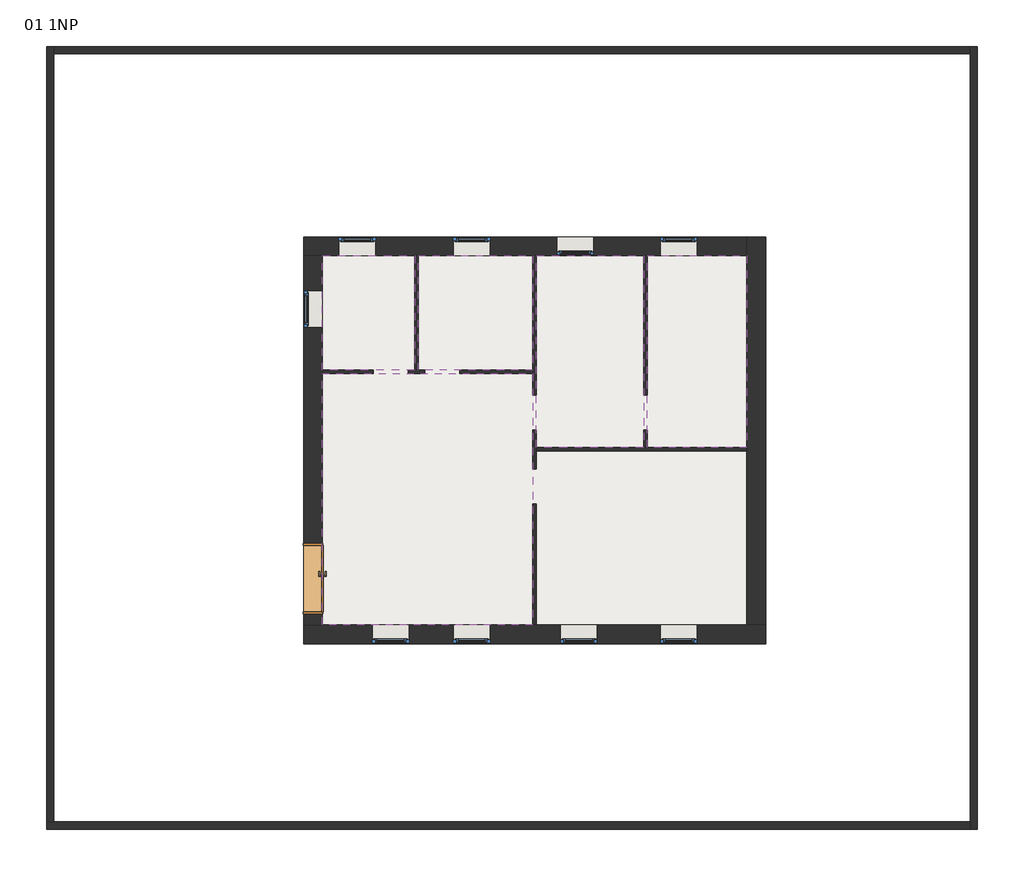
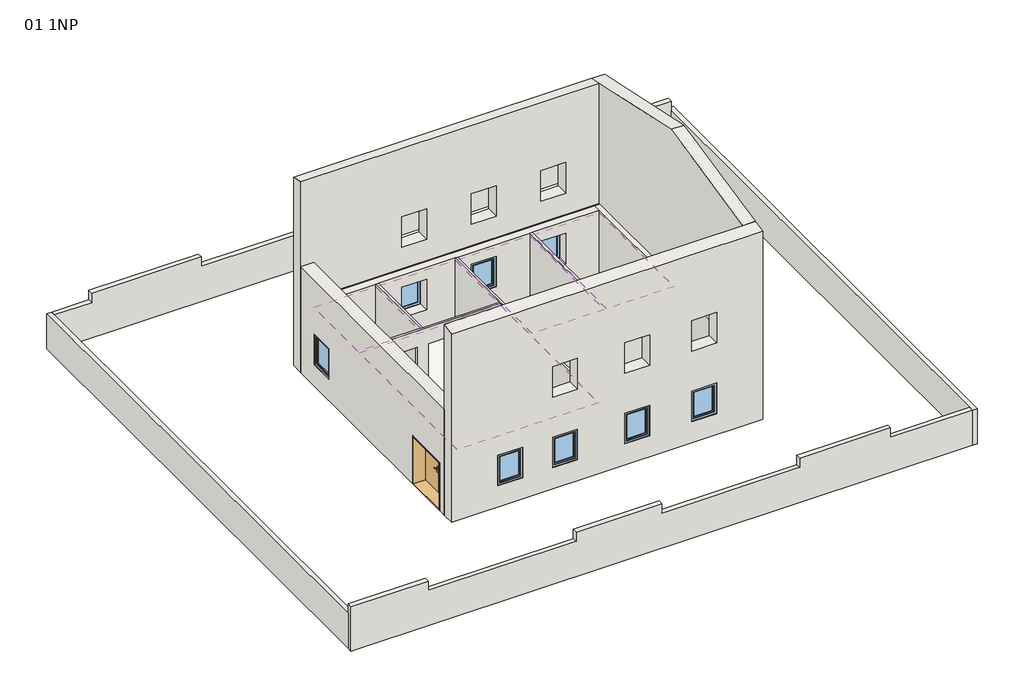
# One storey, incomplete: 13 walls, 9 windows, 6 coverings, 1 door, 1 slab.
"""IFC4 building model written with IfcOpenShell, lengths in millimetres."""

from ifc_helpers import new_model, si_unit, frame, origin, origin_with_axes, place, context, project, spatial, polyline, outline, extrude, faceted_brep, transform, mapped, element, save
from components import door_1800_x_2000_8b63a593, window_1000x1300_4b8b3f88, window_1000x1300_138def9d

model = new_model("IFC4")

# Units and contexts
model_context = context("Model", 3, world=origin())
ifc_project = project(units=[si_unit("LENGTHUNIT", "METRE", prefix="MILLI")], contexts=[model_context])

# Site, building, storey
site = spatial("IfcSite", under=ifc_project)
building = spatial("IfcBuilding", under=site)
storey = spatial("IfcBuildingStorey", under=building, Name="01 1NP", Elevation=0.0)

# Coverings
placement = place(None, origin())
element("IfcCovering", 1, ObjectType="Strop 1", at=placement, inside=storey, context=model_context, shape_type="SweptSolid", body=[
    extrude(outline(polyline([(30688.4387685, 21767.0937321), (28193.4387685, 21767.0937321), (28193.4387685, 24862.0937321), (30688.4387685, 24862.0937321), (30688.4387685, 21767.0937321)])), frame((0.0, 0.0, 2600.0), z_axis=(0.0, 0.0, 1.0), x_axis=(1.0, 0.0, 0.0)), (0.0, 0.0, 1.0), 100.0),
])
element("IfcCovering", 2, ObjectType="Strop 1", at=placement, inside=storey, context=model_context, shape_type="SweptSolid", body=[
    extrude(outline(polyline([(30688.4387685, 21767.0937321), (28193.4387685, 21767.0937321), (28193.4387685, 24862.0937321), (30688.4387685, 24862.0937321), (30688.4387685, 21767.0937321)])), frame((0.0, 0.0, 2600.0), z_axis=(0.0, 0.0, 1.0), x_axis=(1.0, 0.0, 0.0)), (0.0, 0.0, 1.0), 100.0),
])
element("IfcCovering", 3, ObjectType="Strop 1", at=placement, inside=storey, context=model_context, shape_type="SweptSolid", body=[
    extrude(outline(polyline([(30788.4387685, 21767.0937321), (30788.4387685, 24862.0937321), (33888.4387685, 24862.0937321), (33888.4387685, 21767.0937321), (30788.4387685, 21767.0937321)])), frame((0.0, 0.0, 2600.0), z_axis=(0.0, 0.0, 1.0), x_axis=(1.0, 0.0, 0.0)), (0.0, 0.0, 1.0), 100.0),
])
element("IfcCovering", 4, ObjectType="Strop 1", at=placement, inside=storey, context=model_context, shape_type="SweptSolid", body=[
    extrude(outline(polyline([(33988.4387685, 24862.0937321), (36888.4387685, 24862.0937321), (36888.4387685, 19667.0937321), (33988.4387685, 19667.0937321), (33988.4387685, 24862.0937321)])), frame((0.0, 0.0, 2600.0), z_axis=(0.0, 0.0, 1.0), x_axis=(1.0, 0.0, 0.0)), (0.0, 0.0, 1.0), 100.0),
])
element("IfcCovering", 5, ObjectType="Strop 1", at=placement, inside=storey, context=model_context, shape_type="SweptSolid", body=[
    extrude(outline(polyline([(36988.4387685, 24862.0937321), (39683.4387685, 24862.0937321), (39683.4387685, 19667.0937321), (36988.4387685, 19667.0937321), (36988.4387685, 24862.0937321)])), frame((0.0, 0.0, 2600.0), z_axis=(0.0, 0.0, 1.0), x_axis=(1.0, 0.0, 0.0)), (0.0, 0.0, 1.0), 100.0),
])
element("IfcCovering", 6, ObjectType="Strop 1", at=placement, inside=storey, context=model_context, shape_type="SweptSolid", body=[
    extrude(outline(polyline([(33888.4387685, 21667.0937321), (33888.4387685, 14862.0937321), (28193.4387685, 14862.0937321), (28193.4387685, 21667.0937321), (33888.4387685, 21667.0937321)])), frame((0.0, 0.0, 2600.0), z_axis=(0.0, 0.0, 1.0), x_axis=(1.0, 0.0, 0.0)), (0.0, 0.0, 1.0), 100.0),
])

# Door
door_1800_x_2000_shape = door_1800_x_2000_8b63a593(model_context)
element("IfcDoor", 7, ObjectType="Dvoukridle oboustrana zaruben : 1800 x 2000", at=placement, inside=storey, context=model_context, shape_type="MappedRepresentation", body=[
    mapped(door_1800_x_2000_shape, transform((27938.4387685, 16097.0937321, 0.0), x_axis=(0.0, -1.0, 0.0), y_axis=(1.0, 0.0, 0.0), z_axis=(0.0, 0.0, 1.0))),
])

# Slab
element("IfcSlab", 8, ObjectType="Standardní 300 mm", at=placement, inside=storey, context=model_context, shape_type="SweptSolid", body=[
    extrude(outline(polyline([(28183.4387685, 14852.0937321), (28183.4387685, 24872.0937321), (39693.4387685, 24872.0937321), (39693.4387685, 14852.0937321), (28183.4387685, 14852.0937321)])), frame((0.0, 0.0, -300.0), z_axis=(0.0, 0.0, 1.0), x_axis=(1.0, 0.0, 0.0)), (0.0, 0.0, 1.0), 300.0),
])

# Walls
element("IfcWall", 9, ObjectType="SENDWIX L 510mm", at=placement, inside=storey, context=model_context, shape_type="Brep", body=[
    faceted_brep([(27683.4387685, 14352.0937321, 0.0), (40193.4387685, 14352.0937321, 0.0), (40193.4387685, 14352.0937321, 8000.0), (27683.4387685, 14352.0937321, 8000.0), (29538.4387685, 14352.0937321, 2200.0), (30538.4387685, 14352.0937321, 2200.0), (30538.4387685, 14352.0937321, 900.0), (29538.4387685, 14352.0937321, 900.0), (32738.4387685, 14352.0937321, 2200.0), (32738.4387685, 14352.0937321, 900.0), (31738.4387685, 14352.0937321, 900.0), (31738.4387685, 14352.0937321, 2200.0), (35638.4387685, 14352.0937321, 2200.0), (35638.4387685, 14352.0937321, 900.0), (34638.4387685, 14352.0937321, 900.0), (34638.4387685, 14352.0937321, 2200.0), (38338.4387685, 14352.0937321, 2200.0), (38338.4387685, 14352.0937321, 900.0), (37338.4387685, 14352.0937321, 900.0), (37338.4387685, 14352.0937321, 2200.0), (32738.4387685, 14352.0937321, 5200.0), (32738.4387685, 14352.0937321, 3900.0), (31738.4387685, 14352.0937321, 3900.0), (31738.4387685, 14352.0937321, 5200.0), (35638.4387685, 14352.0937321, 5200.0), (35638.4387685, 14352.0937321, 3900.0), (34638.4387685, 14352.0937321, 3900.0), (34638.4387685, 14352.0937321, 5200.0), (38338.4387685, 14352.0937321, 5200.0), (38338.4387685, 14352.0937321, 3900.0), (37338.4387685, 14352.0937321, 3900.0), (37338.4387685, 14352.0937321, 5200.0), (40193.4387685, 14862.0937321, 0.0), (39683.4387685, 14862.0937321, 0.0), (33988.4387685, 14862.0937321, 0.0), (33888.4387685, 14862.0937321, 0.0), (28193.4387685, 14862.0937321, 0.0), (27683.4387685, 14862.0937321, 0.0), (27683.4387685, 14862.0937321, 4500.0), (27683.4387685, 14862.0937321, 8108.4038465), (39683.4387685, 14862.0937321, 8108.4038465), (40193.4387685, 14862.0937321, 8108.4038465), (30538.4387685, 14862.0937321, 2200.0), (29538.4387685, 14862.0937321, 2200.0), (29538.4387685, 14862.0937321, 900.0), (30538.4387685, 14862.0937321, 900.0), (32738.4387685, 14862.0937321, 900.0), (32738.4387685, 14862.0937321, 2200.0), (31738.4387685, 14862.0937321, 2200.0), (31738.4387685, 14862.0937321, 900.0), (35638.4387685, 14862.0937321, 900.0), (35638.4387685, 14862.0937321, 2200.0), (34638.4387685, 14862.0937321, 2200.0), (34638.4387685, 14862.0937321, 900.0), (38338.4387685, 14862.0937321, 900.0), (38338.4387685, 14862.0937321, 2200.0), (37338.4387685, 14862.0937321, 2200.0), (37338.4387685, 14862.0937321, 900.0), (32738.4387685, 14862.0937321, 3900.0), (32738.4387685, 14862.0937321, 5200.0), (31738.4387685, 14862.0937321, 5200.0), (31738.4387685, 14862.0937321, 3900.0), (35638.4387685, 14862.0937321, 3900.0), (35638.4387685, 14862.0937321, 5200.0), (34638.4387685, 14862.0937321, 5200.0), (34638.4387685, 14862.0937321, 3900.0), (38338.4387685, 14862.0937321, 3900.0), (38338.4387685, 14862.0937321, 5200.0), (37338.4387685, 14862.0937321, 5200.0), (37338.4387685, 14862.0937321, 3900.0), (27883.4387685, 14862.0937321, 2700.0), (28193.4387685, 14862.0937321, 2700.0), (33888.4387685, 14862.0937321, 2700.0), (33988.4387685, 14862.0937321, 2700.0), (39683.4387685, 14862.0937321, 2700.0), (39993.4387685, 14862.0937321, 2700.0), (39993.4387685, 14862.0937321, 3000.0), (39683.4387685, 14862.0937321, 3000.0), (28193.4387685, 14862.0937321, 3000.0), (27883.4387685, 14862.0937321, 3000.0), (27883.4387685, 14552.0937321, 2700.0), (39993.4387685, 14552.0937321, 2700.0), (39993.4387685, 14552.0937321, 3000.0), (27883.4387685, 14552.0937321, 3000.0)], [[[0, 1, 2, 3], [4, 5, 6, 7], [8, 9, 10, 11], [12, 13, 14, 15], [16, 17, 18, 19], [20, 21, 22, 23], [24, 25, 26, 27], [28, 29, 30, 31]], [[32, 33, 34, 35, 36, 37, 38, 39, 40, 41], [42, 43, 44, 45], [46, 47, 48, 49], [50, 51, 52, 53], [54, 55, 56, 57], [58, 59, 60, 61], [62, 63, 64, 65], [66, 67, 68, 69], [70, 71, 72, 73, 74, 75, 76, 77, 78, 79]], [[1, 0, 37, 36, 35, 34, 33, 32]], [[0, 3, 39, 38, 37]], [[2, 1, 32, 41]], [[3, 2, 41, 40, 39]], [[43, 4, 7, 44]], [[4, 43, 42, 5]], [[5, 42, 45, 6]], [[6, 45, 44, 7]], [[47, 46, 9, 8]], [[48, 47, 8, 11]], [[49, 48, 11, 10]], [[46, 49, 10, 9]], [[51, 50, 13, 12]], [[52, 51, 12, 15]], [[53, 52, 15, 14]], [[50, 53, 14, 13]], [[55, 54, 17, 16]], [[56, 55, 16, 19]], [[57, 56, 19, 18]], [[54, 57, 18, 17]], [[59, 58, 21, 20]], [[60, 59, 20, 23]], [[61, 60, 23, 22]], [[58, 61, 22, 21]], [[63, 62, 25, 24]], [[64, 63, 24, 27]], [[65, 64, 27, 26]], [[62, 65, 26, 25]], [[67, 66, 29, 28]], [[68, 67, 28, 31]], [[69, 68, 31, 30]], [[66, 69, 30, 29]], [[80, 81, 75, 74, 73, 72, 71, 70]], [[82, 83, 79, 78, 77, 76]], [[83, 80, 70, 79]], [[81, 82, 76, 75]], [[81, 80, 83, 82]]]),
])
element("IfcWall", 10, ObjectType="SENDWIX L 510mm", at=placement, inside=storey, context=model_context, shape_type="Brep", body=[
    faceted_brep([(27683.4387685, 14862.0937321, 4500.0), (27683.4387685, 24862.0937321, 4500.0), (27683.4387685, 24862.0937321, 0.0), (27683.4387685, 17067.0937321, 0.0), (27683.4387685, 17067.0937321, 2050.0), (27683.4387685, 15167.0937321, 2050.0), (27683.4387685, 15167.0937321, 0.0), (27683.4387685, 14862.0937321, 0.0), (27683.4387685, 22917.0937321, 2200.0), (27683.4387685, 22917.0937321, 900.0), (27683.4387685, 23917.0937321, 900.0), (27683.4387685, 23917.0937321, 2200.0), (28193.4387685, 24862.0937321, 4500.0), (28193.4387685, 14862.0937321, 4500.0), (28193.4387685, 14862.0937321, 3000.0), (28193.4387685, 24862.0937321, 3000.0), (28193.4387685, 15167.0937321, 0.0), (28193.4387685, 15167.0937321, 2050.0), (28193.4387685, 17067.0937321, 2050.0), (28193.4387685, 17067.0937321, 0.0), (28193.4387685, 21667.0937321, 0.0), (28193.4387685, 21767.0937321, 0.0), (28193.4387685, 24862.0937321, 0.0), (28193.4387685, 24862.0937321, 2700.0), (28193.4387685, 21767.0937321, 2700.0), (28193.4387685, 21667.0937321, 2700.0), (28193.4387685, 14862.0937321, 2700.0), (28193.4387685, 14862.0937321, 0.0), (28193.4387685, 22917.0937321, 900.0), (28193.4387685, 22917.0937321, 2200.0), (28193.4387685, 23917.0937321, 2200.0), (28193.4387685, 23917.0937321, 900.0), (27883.4387685, 24862.0937321, 3000.0), (27883.4387685, 24862.0937321, 2700.0), (27883.4387685, 14862.0937321, 2700.0), (27883.4387685, 14862.0937321, 3000.0)], [[[0, 1, 2, 3, 4, 5, 6, 7], [8, 9, 10, 11]], [[12, 13, 14, 15]], [[16, 17, 18, 19, 20, 21, 22, 23, 24, 25, 26, 27], [28, 29, 30, 31]], [[2, 22, 21, 20, 19, 3]], [[27, 7, 6, 16]], [[1, 0, 13, 12]], [[2, 1, 12, 15, 32, 33, 23, 22]], [[0, 7, 27, 26, 34, 35, 14, 13]], [[17, 16, 6, 5]], [[18, 17, 5, 4]], [[19, 18, 4, 3]], [[29, 28, 9, 8]], [[30, 29, 8, 11]], [[31, 30, 11, 10]], [[28, 31, 10, 9]], [[33, 34, 26, 25, 24, 23]], [[35, 32, 15, 14]], [[34, 33, 32, 35]]]),
])
element("IfcWall", 11, ObjectType="SENDWIX L 510mm", at=placement, inside=storey, context=model_context, shape_type="Brep", body=[
    faceted_brep([(39683.4387685, 25372.0937321, 0.0), (27683.4387685, 25372.0937321, 0.0), (27683.4387685, 25372.0937321, 8000.0), (39683.4387685, 25372.0937321, 8000.0), (29638.4387685, 25372.0937321, 2200.0), (28638.4387685, 25372.0937321, 2200.0), (28638.4387685, 25372.0937321, 900.0), (29638.4387685, 25372.0937321, 900.0), (32738.4387685, 25372.0937321, 900.0), (32738.4387685, 25372.0937321, 2200.0), (31738.4387685, 25372.0937321, 2200.0), (31738.4387685, 25372.0937321, 900.0), (35538.4387685, 25372.0937321, 900.0), (35538.4387685, 25372.0937321, 2200.0), (34538.4387685, 25372.0937321, 2200.0), (34538.4387685, 25372.0937321, 900.0), (38338.4387685, 25372.0937321, 900.0), (38338.4387685, 25372.0937321, 2200.0), (37338.4387685, 25372.0937321, 2200.0), (37338.4387685, 25372.0937321, 900.0), (32738.4387685, 25372.0937321, 3900.0), (32738.4387685, 25372.0937321, 5200.0), (31738.4387685, 25372.0937321, 5200.0), (31738.4387685, 25372.0937321, 3900.0), (35538.4387685, 25372.0937321, 3900.0), (35538.4387685, 25372.0937321, 5200.0), (34538.4387685, 25372.0937321, 5200.0), (34538.4387685, 25372.0937321, 3900.0), (38338.4387685, 25372.0937321, 3900.0), (38338.4387685, 25372.0937321, 5200.0), (37338.4387685, 25372.0937321, 5200.0), (37338.4387685, 25372.0937321, 3900.0), (27683.4387685, 24862.0937321, 0.0), (28193.4387685, 24862.0937321, 0.0), (30688.4387685, 24862.0937321, 0.0), (30788.4387685, 24862.0937321, 0.0), (33888.4387685, 24862.0937321, 0.0), (33988.4387685, 24862.0937321, 0.0), (36888.4387685, 24862.0937321, 0.0), (36988.4387685, 24862.0937321, 0.0), (39683.4387685, 24862.0937321, 0.0), (39683.4387685, 24862.0937321, 2700.0), (36988.4387685, 24862.0937321, 2700.0), (36888.4387685, 24862.0937321, 2700.0), (33988.4387685, 24862.0937321, 2700.0), (33888.4387685, 24862.0937321, 2700.0), (30788.4387685, 24862.0937321, 2700.0), (30688.4387685, 24862.0937321, 2700.0), (28193.4387685, 24862.0937321, 2700.0), (27883.4387685, 24862.0937321, 2700.0), (27883.4387685, 24862.0937321, 3000.0), (28193.4387685, 24862.0937321, 3000.0), (39683.4387685, 24862.0937321, 3000.0), (39683.4387685, 24862.0937321, 8108.4038465), (27683.4387685, 24862.0937321, 8108.4038465), (27683.4387685, 24862.0937321, 4500.0), (28638.4387685, 24862.0937321, 2200.0), (29638.4387685, 24862.0937321, 2200.0), (29638.4387685, 24862.0937321, 900.0), (28638.4387685, 24862.0937321, 900.0), (32738.4387685, 24862.0937321, 2200.0), (32738.4387685, 24862.0937321, 900.0), (31738.4387685, 24862.0937321, 900.0), (31738.4387685, 24862.0937321, 2200.0), (35538.4387685, 24862.0937321, 2200.0), (35538.4387685, 24862.0937321, 900.0), (34538.4387685, 24862.0937321, 900.0), (34538.4387685, 24862.0937321, 2200.0), (38338.4387685, 24862.0937321, 2200.0), (38338.4387685, 24862.0937321, 900.0), (37338.4387685, 24862.0937321, 900.0), (37338.4387685, 24862.0937321, 2200.0), (32738.4387685, 24862.0937321, 5200.0), (32738.4387685, 24862.0937321, 3900.0), (31738.4387685, 24862.0937321, 3900.0), (31738.4387685, 24862.0937321, 5200.0), (35538.4387685, 24862.0937321, 5200.0), (35538.4387685, 24862.0937321, 3900.0), (34538.4387685, 24862.0937321, 3900.0), (34538.4387685, 24862.0937321, 5200.0), (38338.4387685, 24862.0937321, 5200.0), (38338.4387685, 24862.0937321, 3900.0), (37338.4387685, 24862.0937321, 3900.0), (37338.4387685, 24862.0937321, 5200.0), (39683.4387685, 25172.0937321, 3000.0), (39683.4387685, 25172.0937321, 2700.0), (27883.4387685, 25172.0937321, 2700.0), (27883.4387685, 25172.0937321, 3000.0)], [[[0, 1, 2, 3], [4, 5, 6, 7], [8, 9, 10, 11], [12, 13, 14, 15], [16, 17, 18, 19], [20, 21, 22, 23], [24, 25, 26, 27], [28, 29, 30, 31]], [[32, 33, 34, 35, 36, 37, 38, 39, 40, 41, 42, 43, 44, 45, 46, 47, 48, 49, 50, 51, 52, 53, 54, 55], [56, 57, 58, 59], [60, 61, 62, 63], [64, 65, 66, 67], [68, 69, 70, 71], [72, 73, 74, 75], [76, 77, 78, 79], [80, 81, 82, 83]], [[1, 0, 40, 39, 38, 37, 36, 35, 34, 33, 32]], [[2, 1, 32, 55, 54]], [[0, 3, 53, 52, 84, 85, 41, 40]], [[3, 2, 54, 53]], [[5, 56, 59, 6]], [[56, 5, 4, 57]], [[57, 4, 7, 58]], [[58, 7, 6, 59]], [[9, 8, 61, 60]], [[10, 9, 60, 63]], [[11, 10, 63, 62]], [[8, 11, 62, 61]], [[13, 12, 65, 64]], [[14, 13, 64, 67]], [[15, 14, 67, 66]], [[12, 15, 66, 65]], [[17, 16, 69, 68]], [[18, 17, 68, 71]], [[19, 18, 71, 70]], [[16, 19, 70, 69]], [[21, 20, 73, 72]], [[22, 21, 72, 75]], [[23, 22, 75, 74]], [[20, 23, 74, 73]], [[25, 24, 77, 76]], [[26, 25, 76, 79]], [[27, 26, 79, 78]], [[24, 27, 78, 77]], [[29, 28, 81, 80]], [[30, 29, 80, 83]], [[31, 30, 83, 82]], [[28, 31, 82, 81]], [[85, 86, 49, 48, 47, 46, 45, 44, 43, 42, 41]], [[50, 87, 84, 52, 51]], [[86, 87, 50, 49]], [[87, 86, 85, 84]]]),
])
element("IfcWall", 12, ObjectType="SENDWIX L 510mm", at=placement, inside=storey, context=model_context, shape_type="Brep", body=[
    faceted_brep([(40193.4387685, 14862.0937321, 0.0), (40193.4387685, 25372.0937321, 0.0), (40193.4387685, 25372.0937321, 8000.0), (40193.4387685, 19862.0937321, 9171.1866548), (40193.4387685, 14862.0937321, 8108.4038465), (39683.4387685, 25372.0937321, 0.0), (39683.4387685, 24862.0937321, 0.0), (39683.4387685, 19667.0937321, 0.0), (39683.4387685, 19567.0937321, 0.0), (39683.4387685, 14862.0937321, 0.0), (39683.4387685, 14862.0937321, 2700.0), (39683.4387685, 19567.0937321, 2700.0), (39683.4387685, 19667.0937321, 2700.0), (39683.4387685, 24862.0937321, 2700.0), (39683.4387685, 25172.0937321, 2700.0), (39683.4387685, 25172.0937321, 3000.0), (39683.4387685, 24862.0937321, 3000.0), (39683.4387685, 14862.0937321, 3000.0), (39683.4387685, 14862.0937321, 8108.4038465), (39683.4387685, 19862.0937321, 9171.1866548), (39683.4387685, 24862.0937321, 8108.4038465), (39683.4387685, 25372.0937321, 8000.0), (39993.4387685, 14862.0937321, 3000.0), (39993.4387685, 14862.0937321, 2700.0), (39993.4387685, 25172.0937321, 2700.0), (39993.4387685, 25172.0937321, 3000.0)], [[[0, 1, 2, 3, 4]], [[5, 6, 7, 8, 9, 10, 11, 12, 13, 14, 15, 16, 17, 18, 19, 20, 21]], [[1, 0, 9, 8, 7, 6, 5]], [[2, 1, 5, 21]], [[0, 4, 18, 17, 22, 23, 10, 9]], [[18, 4, 3, 19]], [[2, 21, 20, 19, 3]], [[23, 24, 14, 13, 12, 11, 10]], [[15, 25, 22, 17, 16]], [[24, 25, 15, 14]], [[25, 24, 23, 22]]]),
])
element("IfcWall", 13, ObjectType="Standardní 100mm", at=placement, inside=storey, context=model_context, shape_type="Brep", body=[
    faceted_brep([(33988.4387685, 14862.0937321, 0.0), (33988.4387685, 18142.0937321, 0.0), (33988.4387685, 18142.0937321, 2020.0), (33988.4387685, 19092.0937321, 2020.0), (33988.4387685, 19092.0937321, 0.0), (33988.4387685, 19567.0937321, 0.0), (33988.4387685, 19667.0937321, 0.0), (33988.4387685, 20142.0937321, 0.0), (33988.4387685, 20142.0937321, 2020.0), (33988.4387685, 21092.0937321, 2020.0), (33988.4387685, 21092.0937321, 0.0), (33988.4387685, 24862.0937321, 0.0), (33988.4387685, 24862.0937321, 2700.0), (33988.4387685, 19667.0937321, 2700.0), (33988.4387685, 19567.0937321, 2700.0), (33988.4387685, 14862.0937321, 2700.0), (33888.4387685, 18142.0937321, 2020.0), (33888.4387685, 18142.0937321, 0.0), (33888.4387685, 14862.0937321, 0.0), (33888.4387685, 14862.0937321, 2700.0), (33888.4387685, 21667.0937321, 2700.0), (33888.4387685, 21767.0937321, 2700.0), (33888.4387685, 24862.0937321, 2700.0), (33888.4387685, 24862.0937321, 0.0), (33888.4387685, 21767.0937321, 0.0), (33888.4387685, 21667.0937321, 0.0), (33888.4387685, 21092.0937321, 0.0), (33888.4387685, 21092.0937321, 2020.0), (33888.4387685, 20142.0937321, 2020.0), (33888.4387685, 20142.0937321, 0.0), (33888.4387685, 19092.0937321, 0.0), (33888.4387685, 19092.0937321, 2020.0)], [[[0, 1, 2, 3, 4, 5, 6, 7, 8, 9, 10, 11, 12, 13, 14, 15]], [[16, 17, 18, 19, 20, 21, 22, 23, 24, 25, 26, 27, 28, 29, 30, 31]], [[11, 10, 26, 25, 24, 23]], [[18, 17, 1, 0]], [[30, 29, 7, 6, 5, 4]], [[0, 15, 19, 18]], [[12, 11, 23, 22]], [[15, 14, 13, 12, 22, 21, 20, 19]], [[27, 26, 10, 9]], [[28, 27, 9, 8]], [[29, 28, 8, 7]], [[2, 1, 17, 16]], [[3, 2, 16, 31]], [[4, 3, 31, 30]]]),
])
element("IfcWall", 14, ObjectType="Standardní 100mm", at=placement, inside=storey, context=model_context, shape_type="Brep", body=[
    faceted_brep([(33988.4387685, 19567.0937321, 0.0), (39683.4387685, 19567.0937321, 0.0), (39683.4387685, 19567.0937321, 2700.0), (33988.4387685, 19567.0937321, 2700.0), (33988.4387685, 19667.0937321, 0.0), (33988.4387685, 19667.0937321, 2700.0), (36888.4387685, 19667.0937321, 2700.0), (36988.4387685, 19667.0937321, 2700.0), (39683.4387685, 19667.0937321, 2700.0), (39683.4387685, 19667.0937321, 0.0), (36988.4387685, 19667.0937321, 0.0), (36888.4387685, 19667.0937321, 0.0)], [[[0, 1, 2, 3]], [[4, 5, 6, 7, 8, 9, 10, 11]], [[1, 0, 4, 11, 10, 9]], [[2, 1, 9, 8]], [[0, 3, 5, 4]], [[3, 2, 8, 7, 6, 5]]]),
])
element("IfcWall", 15, ObjectType="Standardní 100mm", at=placement, inside=storey, context=model_context, shape_type="Brep", body=[
    faceted_brep([(31913.4387685, 21667.0937321, 2020.0), (31913.4387685, 21667.0937321, 0.0), (33888.4387685, 21667.0937321, 0.0), (33888.4387685, 21667.0937321, 2700.0), (28193.4387685, 21667.0937321, 2700.0), (28193.4387685, 21667.0937321, 0.0), (29563.4387685, 21667.0937321, 0.0), (29563.4387685, 21667.0937321, 2020.0), (30513.4387685, 21667.0937321, 2020.0), (30513.4387685, 21667.0937321, 0.0), (30963.4387685, 21667.0937321, 0.0), (30963.4387685, 21667.0937321, 2020.0), (33888.4387685, 21767.0937321, 0.0), (31913.4387685, 21767.0937321, 0.0), (31913.4387685, 21767.0937321, 2020.0), (30963.4387685, 21767.0937321, 2020.0), (30963.4387685, 21767.0937321, 0.0), (30788.4387685, 21767.0937321, 0.0), (30688.4387685, 21767.0937321, 0.0), (30513.4387685, 21767.0937321, 0.0), (30513.4387685, 21767.0937321, 2020.0), (29563.4387685, 21767.0937321, 2020.0), (29563.4387685, 21767.0937321, 0.0), (28193.4387685, 21767.0937321, 0.0), (28193.4387685, 21767.0937321, 2700.0), (30688.4387685, 21767.0937321, 2700.0), (30788.4387685, 21767.0937321, 2700.0), (33888.4387685, 21767.0937321, 2700.0)], [[[0, 1, 2, 3, 4, 5, 6, 7, 8, 9, 10, 11]], [[12, 13, 14, 15, 16, 17, 18, 19, 20, 21, 22, 23, 24, 25, 26, 27]], [[23, 22, 6, 5]], [[2, 1, 13, 12]], [[10, 9, 19, 18, 17, 16]], [[5, 4, 24, 23]], [[3, 2, 12, 27]], [[4, 3, 27, 26, 25, 24]], [[7, 6, 22, 21]], [[8, 7, 21, 20]], [[9, 8, 20, 19]], [[14, 13, 1, 0]], [[15, 14, 0, 11]], [[16, 15, 11, 10]]]),
])
element("IfcWall", 16, ObjectType="Standardní 100mm", at=placement, inside=storey, context=model_context, shape_type="SweptSolid", body=[
    extrude(outline(polyline([(30688.4387685, 21767.0937321), (30688.4387685, 24862.0937321), (30788.4387685, 24862.0937321), (30788.4387685, 21767.0937321), (30688.4387685, 21767.0937321)])), origin_with_axes(), (0.0, 0.0, 1.0), 2700.0),
])
element("IfcWall", 17, ObjectType="Standardní 100mm", at=placement, inside=storey, context=model_context, shape_type="SweptSolid", body=[
    extrude(outline(polyline([(24862.0937321, 0.0), (21092.0937321, 0.0), (21092.0937321, 2020.0), (20142.0937321, 2020.0), (20142.0937321, 0.0), (19667.0937321, 0.0), (19667.0937321, 2700.0), (24862.0937321, 2700.0), (24862.0937321, 0.0)])), frame((36888.4387685, 0.0, 0.0), z_axis=(1.0, 0.0, 0.0), x_axis=(0.0, 1.0, 0.0)), (0.0, 0.0, 1.0), 100.0),
])
element("IfcWall", 18, ObjectType="Standardní 200mm", at=placement, inside=storey, context=model_context, shape_type="Brep", body=[
    faceted_brep([(20725.9805266, 9328.6746837, 0.0), (45725.9805266, 9328.6746837, 0.0), (45725.9805266, 9328.6746837, 1500.0), (42425.9805266, 9328.6746837, 1500.0), (42425.9805266, 9328.6746837, 1900.0), (38769.4032946, 9328.6746837, 1900.0), (38769.4032946, 9328.6746837, 1500.0), (33236.1851019, 9328.6746837, 1500.0), (33236.1851019, 9328.6746837, 1900.0), (29781.1194066, 9328.6746837, 1900.0), (29781.1194066, 9328.6746837, 1500.0), (23838.5703533, 9328.6746837, 1500.0), (23838.5703533, 9328.6746837, 1900.0), (20725.9805266, 9328.6746837, 1900.0), (20725.9805266, 9528.6746837, 0.0), (20725.9805266, 9528.6746837, 1500.0), (20725.9805266, 9528.6746837, 1900.0), (23838.5703533, 9528.6746837, 1900.0), (23838.5703533, 9528.6746837, 1500.0), (29781.1194066, 9528.6746837, 1500.0), (29781.1194066, 9528.6746837, 1900.0), (33236.1851019, 9528.6746837, 1900.0), (33236.1851019, 9528.6746837, 1500.0), (38769.4032946, 9528.6746837, 1500.0), (38769.4032946, 9528.6746837, 1900.0), (42425.9805266, 9528.6746837, 1900.0), (42425.9805266, 9528.6746837, 1500.0), (45725.9805266, 9528.6746837, 1500.0), (45725.9805266, 9528.6746837, 0.0), (20925.9805266, 9528.6746837, 0.0)], [[[0, 1, 2, 3, 4, 5, 6, 7, 8, 9, 10, 11, 12, 13]], [[14, 15, 16, 17, 18, 19, 20, 21, 22, 23, 24, 25, 26, 27, 28, 29]], [[1, 0, 14, 29, 28]], [[3, 2, 27, 26]], [[4, 3, 26, 25]], [[5, 4, 25, 24]], [[6, 5, 24, 23]], [[7, 6, 23, 22]], [[8, 7, 22, 21]], [[9, 8, 21, 20]], [[10, 9, 20, 19]], [[11, 10, 19, 18]], [[12, 11, 18, 17]], [[13, 12, 17, 16]], [[0, 13, 16, 15, 14]], [[2, 1, 28, 27]]]),
])
element("IfcWall", 19, ObjectType="Standardní 200mm", at=placement, inside=storey, context=model_context, shape_type="Brep", body=[
    faceted_brep([(20725.9805266, 30528.6746837, 0.0), (20725.9805266, 9528.6746837, 0.0), (20725.9805266, 9528.6746837, 1500.0), (20725.9805266, 30528.6746837, 1500.0), (20925.9805266, 30528.6746837, 0.0), (20925.9805266, 30528.6746837, 1500.0), (20925.9805266, 30328.6746837, 1500.0), (20925.9805266, 9528.6746837, 1500.0), (20925.9805266, 9528.6746837, 0.0), (20925.9805266, 30328.6746837, 0.0)], [[[0, 1, 2, 3]], [[4, 5, 6, 7, 8, 9]], [[1, 0, 4, 9, 8]], [[3, 2, 7, 6, 5]], [[0, 3, 5, 4]], [[2, 1, 8, 7]]]),
])
element("IfcWall", 20, ObjectType="Standardní 200mm", at=placement, inside=storey, context=model_context, shape_type="Brep", body=[
    faceted_brep([(45725.9805266, 30528.6746837, 0.0), (20925.9805266, 30528.6746837, 0.0), (20925.9805266, 30528.6746837, 1500.0), (22425.9805266, 30528.6746837, 1500.0), (22425.9805266, 30528.6746837, 1900.0), (26825.9805266, 30528.6746837, 1900.0), (26825.9805266, 30528.6746837, 1500.0), (31825.9805266, 30528.6746837, 1500.0), (31825.9805266, 30528.6746837, 1900.0), (36425.9805266, 30528.6746837, 1900.0), (36425.9805266, 30528.6746837, 1500.0), (42425.9805266, 30528.6746837, 1500.0), (42425.9805266, 30528.6746837, 1900.0), (45725.9805266, 30528.6746837, 1900.0), (45725.9805266, 30528.6746837, 1500.0), (45725.9805266, 30328.6746837, 0.0), (45725.9805266, 30328.6746837, 1900.0), (42425.9805266, 30328.6746837, 1900.0), (42425.9805266, 30328.6746837, 1500.0), (36425.9805266, 30328.6746837, 1500.0), (36425.9805266, 30328.6746837, 1900.0), (31825.9805266, 30328.6746837, 1900.0), (31825.9805266, 30328.6746837, 1500.0), (26825.9805266, 30328.6746837, 1500.0), (26825.9805266, 30328.6746837, 1900.0), (22425.9805266, 30328.6746837, 1900.0), (22425.9805266, 30328.6746837, 1500.0), (20925.9805266, 30328.6746837, 1500.0), (20925.9805266, 30328.6746837, 0.0)], [[[0, 1, 2, 3, 4, 5, 6, 7, 8, 9, 10, 11, 12, 13, 14]], [[15, 16, 17, 18, 19, 20, 21, 22, 23, 24, 25, 26, 27, 28]], [[1, 0, 15, 28]], [[3, 2, 27, 26]], [[4, 3, 26, 25]], [[5, 4, 25, 24]], [[6, 5, 24, 23]], [[7, 6, 23, 22]], [[8, 7, 22, 21]], [[9, 8, 21, 20]], [[10, 9, 20, 19]], [[11, 10, 19, 18]], [[12, 11, 18, 17]], [[13, 12, 17, 16]], [[2, 1, 28, 27]], [[0, 14, 13, 16, 15]]]),
])
element("IfcWall", 21, ObjectType="Standardní 200mm", at=placement, inside=storey, context=model_context, shape_type="Brep", body=[
    faceted_brep([(45925.9805266, 9328.6746837, 0.0), (45925.9805266, 30528.6746837, 0.0), (45925.9805266, 30528.6746837, 1500.0), (45925.9805266, 9328.6746837, 1500.0), (45725.9805266, 9328.6746837, 0.0), (45725.9805266, 9328.6746837, 1500.0), (45725.9805266, 9528.6746837, 1500.0), (45725.9805266, 30528.6746837, 1500.0), (45725.9805266, 30528.6746837, 0.0), (45725.9805266, 30328.6746837, 0.0), (45725.9805266, 9528.6746837, 0.0)], [[[0, 1, 2, 3]], [[4, 5, 6, 7, 8, 9, 10]], [[1, 0, 4, 10, 9, 8]], [[3, 2, 7, 6, 5]], [[0, 3, 5, 4]], [[2, 1, 8, 7]]]),
])

# Windows
window_1000x1300_shape = window_1000x1300_4b8b3f88(model_context)
element("IfcWindow", 22, ObjectType="Jednokridlove rovne : 1000x1300", at=placement, inside=storey, context=model_context, shape_type="MappedRepresentation", body=[
    mapped(window_1000x1300_shape, transform((29138.4387685, 25117.0937321, 0.0), x_axis=(1.0, 0.0, 0.0), y_axis=(0.0, 1.0, 0.0), z_axis=(0.0, 0.0, 1.0))),
])
element("IfcWindow", 23, ObjectType="Jednokridlove rovne : 1000x1300", at=placement, inside=storey, context=model_context, shape_type="MappedRepresentation", body=[
    mapped(window_1000x1300_shape, transform((27938.4387685, 23417.0937321, 0.0), x_axis=(0.0, 1.0, 0.0), y_axis=(-1.0, 0.0, 0.0), z_axis=(0.0, 0.0, 1.0))),
])
element("IfcWindow", 24, ObjectType="Jednokridlove rovne : 1000x1300", at=placement, inside=storey, context=model_context, shape_type="MappedRepresentation", body=[
    mapped(window_1000x1300_shape, transform((32238.4387685, 14607.0937321, 0.0), x_axis=(-1.0, 0.0, 0.0), y_axis=(0.0, -1.0, 0.0), z_axis=(0.0, 0.0, 1.0))),
])
element("IfcWindow", 25, ObjectType="Jednokridlove rovne : 1000x1300", at=placement, inside=storey, context=model_context, shape_type="MappedRepresentation", body=[
    mapped(window_1000x1300_shape, transform((35138.4387685, 14607.0937321, 0.0), x_axis=(-1.0, 0.0, 0.0), y_axis=(0.0, -1.0, 0.0), z_axis=(0.0, 0.0, 1.0))),
])
element("IfcWindow", 26, ObjectType="Jednokridlove rovne : 1000x1300", at=placement, inside=storey, context=model_context, shape_type="MappedRepresentation", body=[
    mapped(window_1000x1300_shape, transform((37838.4387685, 14607.0937321, 0.0), x_axis=(-1.0, 0.0, 0.0), y_axis=(0.0, -1.0, 0.0), z_axis=(0.0, 0.0, 1.0))),
])
window_1000x1300_2_shape = window_1000x1300_138def9d(model_context)
element("IfcWindow", 27, ObjectType="Jednokridlove rovne : 1000x1300", at=placement, inside=storey, context=model_context, shape_type="MappedRepresentation", body=[
    mapped(window_1000x1300_2_shape, transform((32238.4387685, 25117.0937321, 0.0), x_axis=(-1.0, 0.0, 0.0), y_axis=(0.0, -1.0, 0.0), z_axis=(0.0, 0.0, 1.0))),
])
element("IfcWindow", 28, ObjectType="Jednokridlove rovne : 1000x1300", at=placement, inside=storey, context=model_context, shape_type="MappedRepresentation", body=[
    mapped(window_1000x1300_2_shape, transform((37838.4387685, 25117.0937321, 0.0), x_axis=(-1.0, 0.0, 0.0), y_axis=(0.0, -1.0, 0.0), z_axis=(0.0, 0.0, 1.0))),
])
element("IfcWindow", 29, ObjectType="Jednokridlove rovne : 1000x1300", at=placement, inside=storey, context=model_context, shape_type="MappedRepresentation", body=[
    mapped(window_1000x1300_2_shape, transform((30038.4387685, 14607.0937321, 0.0), x_axis=(1.0, 0.0, 0.0), y_axis=(0.0, 1.0, 0.0), z_axis=(0.0, 0.0, 1.0))),
])
element("IfcWindow", 30, ObjectType="Jednokridlove rovne : 1000x1300", at=placement, inside=storey, context=model_context, shape_type="MappedRepresentation", body=[
    mapped(window_1000x1300_shape, transform((35038.4387685, 25117.0937321, 0.0), x_axis=(-1.0, 0.0, 0.0), y_axis=(0.0, -1.0, 0.0), z_axis=(0.0, 0.0, 1.0))),
])

save(model, "model.ifc")
